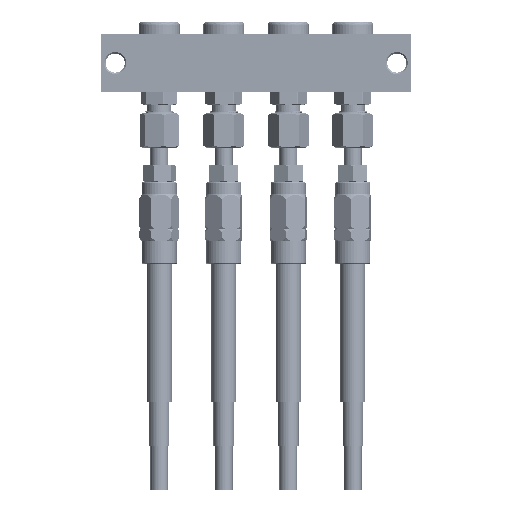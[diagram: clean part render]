
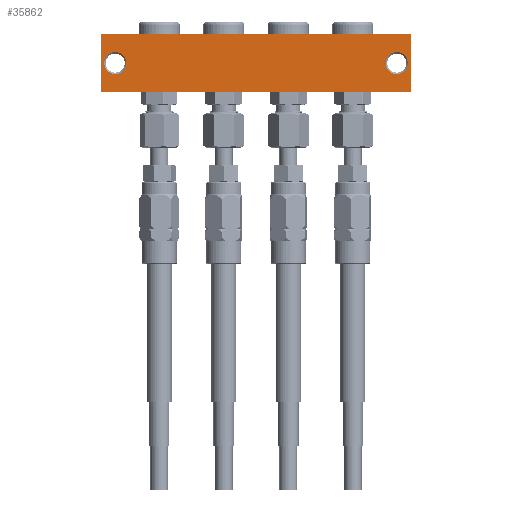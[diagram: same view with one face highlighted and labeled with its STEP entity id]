
A CAD part, front view. The second image highlights one B-rep face of the part: STEP entity #35862.
In plain terms, the highlighted planar face has unit normal (0, -1, 0).
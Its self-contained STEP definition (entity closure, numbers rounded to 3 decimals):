
#529 = VERTEX_POINT ( 'NONE', #18197 ) ;
#3389 = CARTESIAN_POINT ( 'NONE',  ( 53., 0., -10. ) ) ;
#4009 = CARTESIAN_POINT ( 'NONE',  ( 53., 0., 10. ) ) ;
#4582 = DIRECTION ( 'NONE',  ( 0., 1., 0. ) ) ;
#5323 = FACE_BOUND ( 'NONE', #52055, .T. ) ;
#5467 = DIRECTION ( 'NONE',  ( 0., 1., 0. ) ) ;
#6529 = VECTOR ( 'NONE', #47943, 1000. ) ;
#8238 = DIRECTION ( 'NONE',  ( 1., 0., 0. ) ) ;
#8530 = LINE ( 'NONE', #11891, #19402 ) ;
#9601 = ORIENTED_EDGE ( 'NONE', *, *, #42455, .T. ) ;
#9901 = CARTESIAN_POINT ( 'NONE',  ( -53., 0., 10. ) ) ;
#10782 = CIRCLE ( 'NONE', #44549, 3.75 ) ;
#11891 = CARTESIAN_POINT ( 'NONE',  ( 53., 0., 10. ) ) ;
#12439 = CIRCLE ( 'NONE', #51018, 3.75 ) ;
#12648 = EDGE_CURVE ( 'NONE', #56716, #23588, #8530, .T. ) ;
#13797 = PLANE ( 'NONE',  #33670 ) ;
#15161 = VERTEX_POINT ( 'NONE', #51114 ) ;
#16193 = CARTESIAN_POINT ( 'NONE',  ( 48., 0., 3.75 ) ) ;
#18197 = CARTESIAN_POINT ( 'NONE',  ( -53., 0., -10. ) ) ;
#19402 = VECTOR ( 'NONE', #8238, 1000. ) ;
#21329 = VERTEX_POINT ( 'NONE', #16193 ) ;
#21458 = CARTESIAN_POINT ( 'NONE',  ( 53., 0., -10. ) ) ;
#22860 = FACE_OUTER_BOUND ( 'NONE', #26371, .T. ) ;
#23588 = VERTEX_POINT ( 'NONE', #55479 ) ;
#23751 = DIRECTION ( 'NONE',  ( 0., 0., 1. ) ) ;
#26371 = EDGE_LOOP ( 'NONE', ( #55424, #31350, #40203, #9601 ) ) ;
#26970 = LINE ( 'NONE', #4009, #56293 ) ;
#28580 = ORIENTED_EDGE ( 'NONE', *, *, #33372, .T. ) ;
#28585 = FACE_BOUND ( 'NONE', #33178, .T. ) ;
#30361 = VERTEX_POINT ( 'NONE', #21458 ) ;
#30867 = DIRECTION ( 'NONE',  ( 1., 0., 0. ) ) ;
#31350 = ORIENTED_EDGE ( 'NONE', *, *, #53154, .F. ) ;
#33178 = EDGE_LOOP ( 'NONE', ( #28580 ) ) ;
#33372 = EDGE_CURVE ( 'NONE', #21329, #21329, #12439, .T. ) ;
#33670 = AXIS2_PLACEMENT_3D ( 'NONE', #46717, #55482, #23751 ) ;
#35467 = VECTOR ( 'NONE', #30867, 1000. ) ;
#35862 = ADVANCED_FACE ( 'NONE', ( #28585, #5323, #22860 ), #13797, .F. ) ;
#37793 = CARTESIAN_POINT ( 'NONE',  ( -48., 0., 0. ) ) ;
#40203 = ORIENTED_EDGE ( 'NONE', *, *, #12648, .F. ) ;
#41077 = EDGE_CURVE ( 'NONE', #529, #30361, #59282, .T. ) ;
#42455 = EDGE_CURVE ( 'NONE', #56716, #529, #47354, .T. ) ;
#44549 = AXIS2_PLACEMENT_3D ( 'NONE', #37793, #5467, #56229 ) ;
#44779 = EDGE_CURVE ( 'NONE', #15161, #15161, #10782, .T. ) ;
#46265 = CARTESIAN_POINT ( 'NONE',  ( 48., 0., 0. ) ) ;
#46717 = CARTESIAN_POINT ( 'NONE',  ( 53., 0., 10. ) ) ;
#47354 = LINE ( 'NONE', #9901, #6529 ) ;
#47930 = CARTESIAN_POINT ( 'NONE',  ( -53., 0., 10. ) ) ;
#47943 = DIRECTION ( 'NONE',  ( 0., 0., -1. ) ) ;
#49260 = ORIENTED_EDGE ( 'NONE', *, *, #44779, .T. ) ;
#50191 = DIRECTION ( 'NONE',  ( 0., 0., 1. ) ) ;
#51018 = AXIS2_PLACEMENT_3D ( 'NONE', #46265, #4582, #50191 ) ;
#51114 = CARTESIAN_POINT ( 'NONE',  ( -48., 0., 3.75 ) ) ;
#52055 = EDGE_LOOP ( 'NONE', ( #49260 ) ) ;
#53154 = EDGE_CURVE ( 'NONE', #23588, #30361, #26970, .T. ) ;
#55424 = ORIENTED_EDGE ( 'NONE', *, *, #41077, .T. ) ;
#55479 = CARTESIAN_POINT ( 'NONE',  ( 53., 0., 10. ) ) ;
#55482 = DIRECTION ( 'NONE',  ( 0., 1., 0. ) ) ;
#56229 = DIRECTION ( 'NONE',  ( 0., 0., 1. ) ) ;
#56293 = VECTOR ( 'NONE', #59316, 1000. ) ;
#56716 = VERTEX_POINT ( 'NONE', #47930 ) ;
#59282 = LINE ( 'NONE', #3389, #35467 ) ;
#59316 = DIRECTION ( 'NONE',  ( 0., 0., -1. ) ) ;
